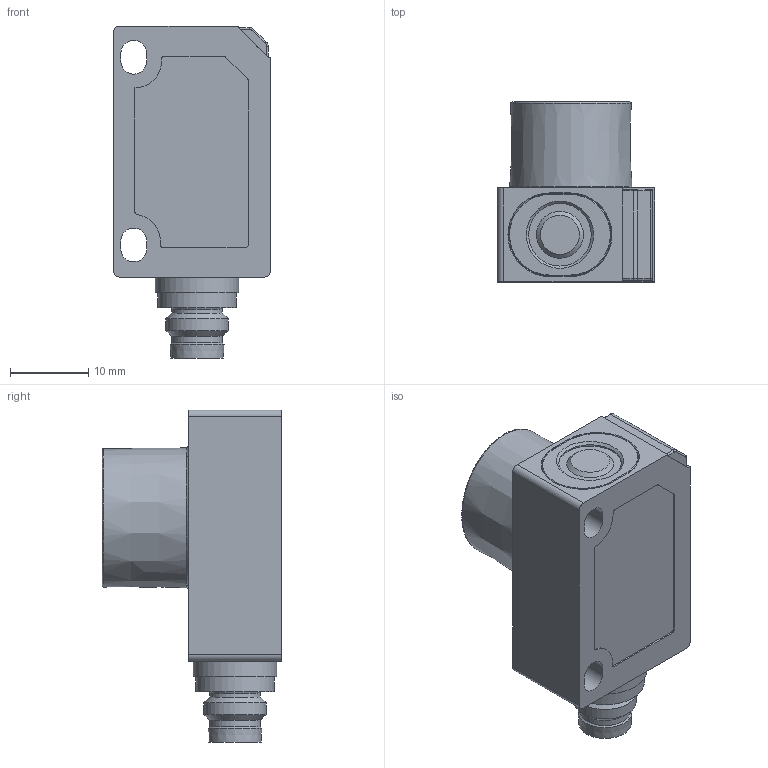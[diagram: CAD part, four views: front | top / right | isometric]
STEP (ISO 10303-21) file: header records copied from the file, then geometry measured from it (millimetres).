
FILE_DESCRIPTION((''),'2;1');
FILE_NAME('J:\Projekte\Kunststoff-Blechteile\Zeichnungen\Bibliothek Inventor\3D Solids\zws\STP\zws-25_CX_QS.stp','2012-07-06T12:51:27',('Oliver Liedtke'),(''),'Autodesk Inventor 2013','Autodesk Inventor 2013','');
FILE_SCHEMA(('AUTOMOTIVE_DESIGN { 1 0 10303 214 1 1 1 1 }'));
Length unit declared in the file: millimetre
Products named in the file (1): zws-25_CX_QS
Bounding box: 20.11 x 23 x 42.45 mm (x, y, z)
Volume: 10130 mm3; surface area: 3795.5 mm2
Topology: 1 solids, 1 shells, 118 faces, 280 edges, 177 vertices
Faces by surface type: plane 58, cylinder 38, cone 10, torus 5, sphere 4, bspline 3
Full cylindrical faces by diameter (mm): 1 x4, 5 x1, 6.5 x2, 8 x2, 10 x1, 10.7 x1, 11.5 x1, 13.4 x1
Entity records: 3642 total; most frequent: CARTESIAN_POINT 816, DIRECTION 572, ORIENTED_EDGE 502, EDGE_CURVE 251, AXIS2_PLACEMENT_3D 210, VERTEX_POINT 172, EDGE_LOOP 159, VECTOR 152
